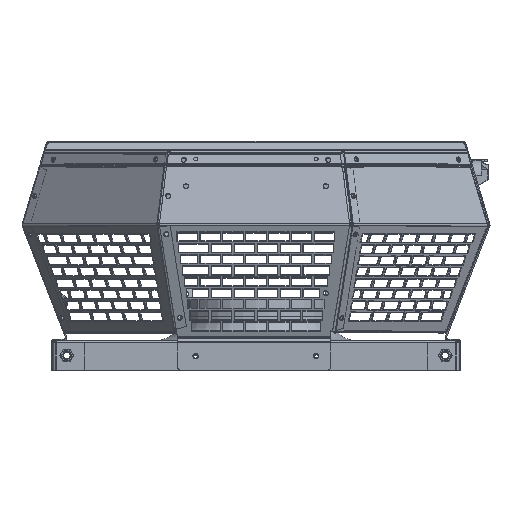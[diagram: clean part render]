
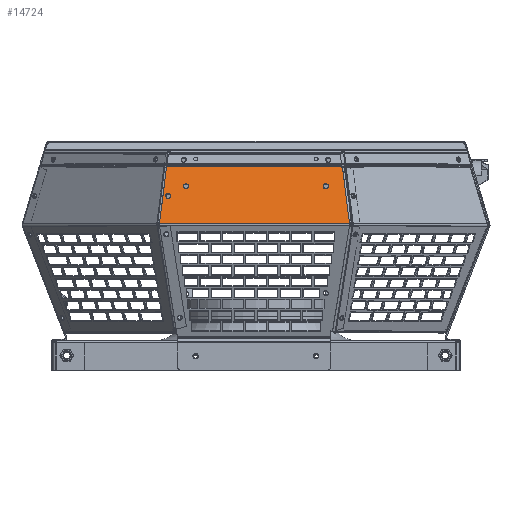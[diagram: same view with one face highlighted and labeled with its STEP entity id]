
A CAD part, top view. The second image highlights one B-rep face of the part: STEP entity #14724.
In plain terms, the highlighted planar face has unit normal (0, 0.288, 0.958).
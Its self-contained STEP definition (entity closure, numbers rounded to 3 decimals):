
#5777 = EDGE_LOOP ( 'NONE', ( #56681, #56684 ) ) ;
#5781 = EDGE_LOOP ( 'NONE', ( #56687, #56690, #56693, #56694, #56696, #56699, #56702 ) ) ;
#5782 = EDGE_LOOP ( 'NONE', ( #56705, #56708 ) ) ;
#5784 = EDGE_LOOP ( 'NONE', ( #56711, #56714 ) ) ;
#8878 = VERTEX_POINT ( 'NONE', #58699 ) ;
#8880 = VERTEX_POINT ( 'NONE', #58845 ) ;
#8924 = VERTEX_POINT ( 'NONE', #58858 ) ;
#8927 = VERTEX_POINT ( 'NONE', #58861 ) ;
#8936 = VERTEX_POINT ( 'NONE', #58862 ) ;
#8939 = VERTEX_POINT ( 'NONE', #58865 ) ;
#14724 = ADVANCED_FACE ( 'NONE', ( #47567, #47570, #47568, #47569 ), #43646, .F. ) ;
#17537 = EDGE_CURVE ( 'NONE', #8880, #8878, #42176, .T. ) ;
#17539 = EDGE_CURVE ( 'NONE', #63468, #63410, #42182, .T. ) ;
#17540 = EDGE_CURVE ( 'NONE', #63460, #63416, #42180, .T. ) ;
#17541 = EDGE_CURVE ( 'NONE', #63388, #63468, #42191, .T. ) ;
#17542 = EDGE_CURVE ( 'NONE', #63406, #63460, #42195, .T. ) ;
#17656 = EDGE_CURVE ( 'NONE', #8936, #8939, #42663, .T. ) ;
#17661 = EDGE_CURVE ( 'NONE', #8924, #8927, #42679, .T. ) ;
#17677 = EDGE_CURVE ( 'NONE', #8878, #8880, #42733, .T. ) ;
#17735 = EDGE_CURVE ( 'NONE', #8939, #8936, #42965, .T. ) ;
#17963 = EDGE_CURVE ( 'NONE', #63406, #63410, #38856, .T. ) ;
#18041 = EDGE_CURVE ( 'NONE', #8927, #8924, #38996, .T. ) ;
#18138 = EDGE_CURVE ( 'NONE', #63416, #63376, #39160, .T. ) ;
#18157 = EDGE_CURVE ( 'NONE', #63388, #63376, #39193, .T. ) ;
#25781 = AXIS2_PLACEMENT_3D ( 'NONE', #56410, #56412, #56414 ) ;
#25816 = AXIS2_PLACEMENT_3D ( 'NONE', #74640, #74641, #74642 ) ;
#25825 = AXIS2_PLACEMENT_3D ( 'NONE', #74654, #74655, #74656 ) ;
#25851 = AXIS2_PLACEMENT_3D ( 'NONE', #74694, #74695, #74696 ) ;
#25872 = AXIS2_PLACEMENT_3D ( 'NONE', #74908, #74910, #74912 ) ;
#25911 = AXIS2_PLACEMENT_3D ( 'NONE', #45582, #45583, #45584 ) ;
#31620 = AXIS2_PLACEMENT_3D ( 'NONE', #43645, #43637, #43647 ) ;
#38856 = LINE ( 'NONE', #75672, #38861 ) ;
#38861 = VECTOR ( 'NONE', #75682, 1000. ) ;
#38996 = CIRCLE ( 'NONE', #25911, 2.1 ) ;
#39160 = LINE ( 'NONE', #45809, #39162 ) ;
#39162 = VECTOR ( 'NONE', #45815, 1000. ) ;
#39193 = LINE ( 'NONE', #45862, #39195 ) ;
#39195 = VECTOR ( 'NONE', #45863, 1000. ) ;
#42176 = CIRCLE ( 'NONE', #25781, 2.1 ) ;
#42180 = LINE ( 'NONE', #56404, #42193 ) ;
#42182 = LINE ( 'NONE', #56416, #42189 ) ;
#42189 = VECTOR ( 'NONE', #56420, 1000. ) ;
#42191 = LINE ( 'NONE', #56425, #42198 ) ;
#42193 = VECTOR ( 'NONE', #56422, 1000. ) ;
#42195 = LINE ( 'NONE', #56429, #42202 ) ;
#42198 = VECTOR ( 'NONE', #56427, 1000. ) ;
#42202 = VECTOR ( 'NONE', #56430, 1000. ) ;
#42663 = CIRCLE ( 'NONE', #25816, 2.1 ) ;
#42679 = CIRCLE ( 'NONE', #25825, 2.1 ) ;
#42733 = CIRCLE ( 'NONE', #25851, 2.1 ) ;
#42965 = CIRCLE ( 'NONE', #25872, 2.1 ) ;
#43637 = DIRECTION ( 'NONE',  ( 0., -0.288, -0.958 ) ) ;
#43645 = CARTESIAN_POINT ( 'NONE',  ( 79.94, 97.017, 194.185 ) ) ;
#43646 = PLANE ( 'NONE',  #31620 ) ;
#43647 = DIRECTION ( 'NONE',  ( 0., 0.958, -0.288 ) ) ;
#45582 = CARTESIAN_POINT ( 'NONE',  ( -58.06, 128.655, 184.663 ) ) ;
#45583 = DIRECTION ( 'NONE',  ( 0., -0.288, -0.958 ) ) ;
#45584 = DIRECTION ( 'NONE',  ( 0., 0.958, -0.288 ) ) ;
#45809 = CARTESIAN_POINT ( 'NONE',  ( -74.19, 144.896, 179.775 ) ) ;
#45815 = DIRECTION ( 'NONE',  ( 0.119, 0.951, -0.286 ) ) ;
#45862 = CARTESIAN_POINT ( 'NONE',  ( 79.94, 144.999, 179.744 ) ) ;
#45863 = DIRECTION ( 'NONE',  ( -1., 0., 0. ) ) ;
#47567 = FACE_BOUND ( 'NONE', #5777, .T. ) ;
#47568 = FACE_BOUND ( 'NONE', #5782, .T. ) ;
#47569 = FACE_BOUND ( 'NONE', #5784, .T. ) ;
#47570 = FACE_OUTER_BOUND ( 'NONE', #5781, .T. ) ;
#48875 = CARTESIAN_POINT ( 'NONE',  ( -74.177, 144.999, 179.744 ) ) ;
#48879 = CARTESIAN_POINT ( 'NONE',  ( 71.183, 144.999, 179.744 ) ) ;
#48886 = CARTESIAN_POINT ( 'NONE',  ( 71.739, 144.572, 179.872 ) ) ;
#48889 = CARTESIAN_POINT ( 'NONE',  ( 77.555, 97.923, 193.912 ) ) ;
#48893 = CARTESIAN_POINT ( 'NONE',  ( -80.06, 97.804, 193.948 ) ) ;
#48903 = CARTESIAN_POINT ( 'NONE',  ( 77.554, 97.804, 193.948 ) ) ;
#48909 = CARTESIAN_POINT ( 'NONE',  ( 71.236, 144.572, 179.872 ) ) ;
#56404 = CARTESIAN_POINT ( 'NONE',  ( 79.94, 97.804, 193.948 ) ) ;
#56410 = CARTESIAN_POINT ( 'NONE',  ( -72.783, 120.662, 187.068 ) ) ;
#56412 = DIRECTION ( 'NONE',  ( 0., -0.288, -0.958 ) ) ;
#56414 = DIRECTION ( 'NONE',  ( 0., 0.958, -0.288 ) ) ;
#56416 = CARTESIAN_POINT ( 'NONE',  ( 71.236, 144.572, 179.872 ) ) ;
#56420 = DIRECTION ( 'NONE',  ( 1., 0., 0. ) ) ;
#56422 = DIRECTION ( 'NONE',  ( -1., 0., 0. ) ) ;
#56425 = CARTESIAN_POINT ( 'NONE',  ( 77.203, 96.704, 194.279 ) ) ;
#56427 = DIRECTION ( 'NONE',  ( 0.119, -0.951, 0.286 ) ) ;
#56429 = CARTESIAN_POINT ( 'NONE',  ( 77.54, 96.026, 194.483 ) ) ;
#56430 = DIRECTION ( 'NONE',  ( -0.007, -0.958, 0.288 ) ) ;
#56681 = ORIENTED_EDGE ( 'NONE', *, *, #17537, .T. ) ;
#56684 = ORIENTED_EDGE ( 'NONE', *, *, #17677, .T. ) ;
#56687 = ORIENTED_EDGE ( 'NONE', *, *, #17963, .T. ) ;
#56690 = ORIENTED_EDGE ( 'NONE', *, *, #17539, .F. ) ;
#56693 = ORIENTED_EDGE ( 'NONE', *, *, #17541, .F. ) ;
#56694 = ORIENTED_EDGE ( 'NONE', *, *, #18157, .T. ) ;
#56696 = ORIENTED_EDGE ( 'NONE', *, *, #18138, .F. ) ;
#56699 = ORIENTED_EDGE ( 'NONE', *, *, #17540, .F. ) ;
#56702 = ORIENTED_EDGE ( 'NONE', *, *, #17542, .F. ) ;
#56705 = ORIENTED_EDGE ( 'NONE', *, *, #18041, .T. ) ;
#56708 = ORIENTED_EDGE ( 'NONE', *, *, #17661, .T. ) ;
#56711 = ORIENTED_EDGE ( 'NONE', *, *, #17656, .F. ) ;
#56714 = ORIENTED_EDGE ( 'NONE', *, *, #17735, .F. ) ;
#58699 = CARTESIAN_POINT ( 'NONE',  ( -72.783, 118.651, 187.673 ) ) ;
#58845 = CARTESIAN_POINT ( 'NONE',  ( -72.783, 122.673, 186.463 ) ) ;
#58858 = CARTESIAN_POINT ( 'NONE',  ( -58.06, 126.644, 185.268 ) ) ;
#58861 = CARTESIAN_POINT ( 'NONE',  ( -58.06, 130.666, 184.057 ) ) ;
#58862 = CARTESIAN_POINT ( 'NONE',  ( 57.94, 130.666, 184.057 ) ) ;
#58865 = CARTESIAN_POINT ( 'NONE',  ( 57.94, 126.644, 185.268 ) ) ;
#63376 = VERTEX_POINT ( 'NONE', #48875 ) ;
#63388 = VERTEX_POINT ( 'NONE', #48879 ) ;
#63406 = VERTEX_POINT ( 'NONE', #48889 ) ;
#63410 = VERTEX_POINT ( 'NONE', #48886 ) ;
#63416 = VERTEX_POINT ( 'NONE', #48893 ) ;
#63460 = VERTEX_POINT ( 'NONE', #48903 ) ;
#63468 = VERTEX_POINT ( 'NONE', #48909 ) ;
#74640 = CARTESIAN_POINT ( 'NONE',  ( 57.94, 128.655, 184.663 ) ) ;
#74641 = DIRECTION ( 'NONE',  ( 0., 0.288, 0.958 ) ) ;
#74642 = DIRECTION ( 'NONE',  ( 0., 0.958, -0.288 ) ) ;
#74654 = CARTESIAN_POINT ( 'NONE',  ( -58.06, 128.655, 184.663 ) ) ;
#74655 = DIRECTION ( 'NONE',  ( 0., -0.288, -0.958 ) ) ;
#74656 = DIRECTION ( 'NONE',  ( 0., 0.958, -0.288 ) ) ;
#74694 = CARTESIAN_POINT ( 'NONE',  ( -72.783, 120.662, 187.068 ) ) ;
#74695 = DIRECTION ( 'NONE',  ( 0., -0.288, -0.958 ) ) ;
#74696 = DIRECTION ( 'NONE',  ( 0., 0.958, -0.288 ) ) ;
#74908 = CARTESIAN_POINT ( 'NONE',  ( 57.94, 128.655, 184.663 ) ) ;
#74910 = DIRECTION ( 'NONE',  ( 0., 0.288, 0.958 ) ) ;
#74912 = DIRECTION ( 'NONE',  ( 0., 0.958, -0.288 ) ) ;
#75672 = CARTESIAN_POINT ( 'NONE',  ( 77.603, 97.537, 194.028 ) ) ;
#75682 = DIRECTION ( 'NONE',  ( -0.119, 0.951, -0.286 ) ) ;
